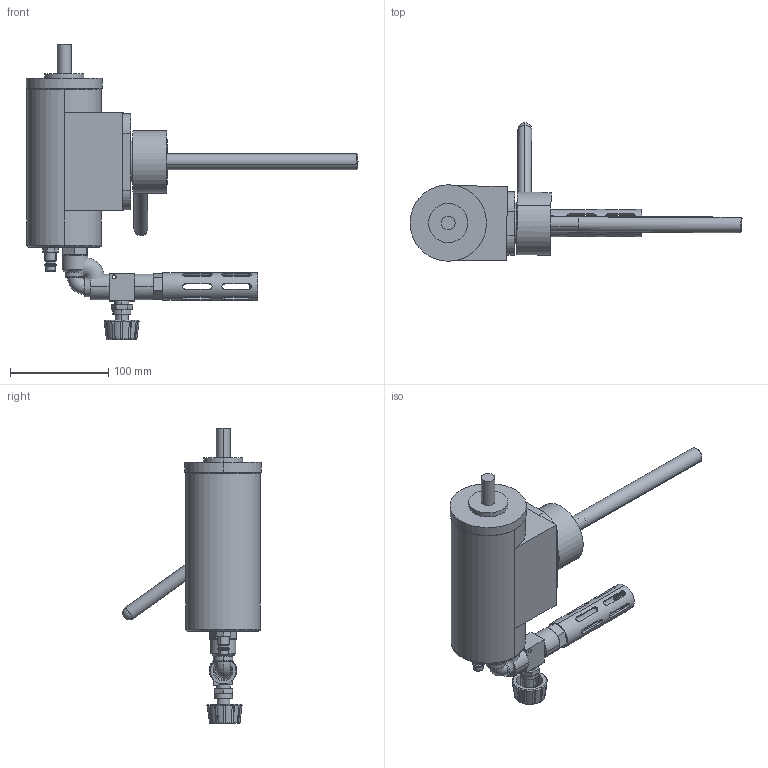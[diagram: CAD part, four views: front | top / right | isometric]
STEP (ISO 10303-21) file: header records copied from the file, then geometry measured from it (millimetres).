
FILE_DESCRIPTION (( 'STEP AP214' ), '1' );
FILE_NAME ('PM6430-A-V.STEP', '2019-05-22T14:05:42', ( '' ), ( '' ), 'SwSTEP 2.0', 'SolidWorks 2018', '' );
FILE_SCHEMA (( 'AUTOMOTIVE_DESIGN' ));
Length unit declared in the file: millimetre
Products named in the file (17): Halterung A; Überwurfmutter; Kugel; Pertinax Einsatz; Grundplatte; Futterstück; Schalli; Stellrad V3; V3; Doppelnippel PM64; Schalldämmhaube; Winkel V3; Stecknippel PLM; PM64; PM6430-A-V; Schalldämpfer Deckel Groß; Halterung
Assembly tree (16 placements, depth 3):
  PM6430-A-V
    PM64
    Stecknippel PLM
    Winkel V3
    Schalldämmhaube
    Doppelnippel PM64
    V3
    Stellrad V3
    Schalli
    Futterstück
    Halterung A
      Grundplatte
      Pertinax Einsatz
      Kugel
      Überwurfmutter
    Halterung
    Schalldämpfer Deckel Groß
Bounding box: 338.62 x 141.55 x 301.6 mm (x, y, z)
Volume: 928135.9 mm3; surface area: 274886.5 mm2
Topology: 15 solids, 15 shells, 514 faces, 1217 edges, 775 vertices
Faces by surface type: plane 231, cylinder 209, cone 48, torus 20, sphere 6
Entity records: 17578 total; most frequent: CARTESIAN_POINT 4674, DIRECTION 2566, ORIENTED_EDGE 2400, EDGE_CURVE 1200, AXIS2_PLACEMENT_3D 1000, VERTEX_POINT 768, EDGE_LOOP 618, VECTOR 566
